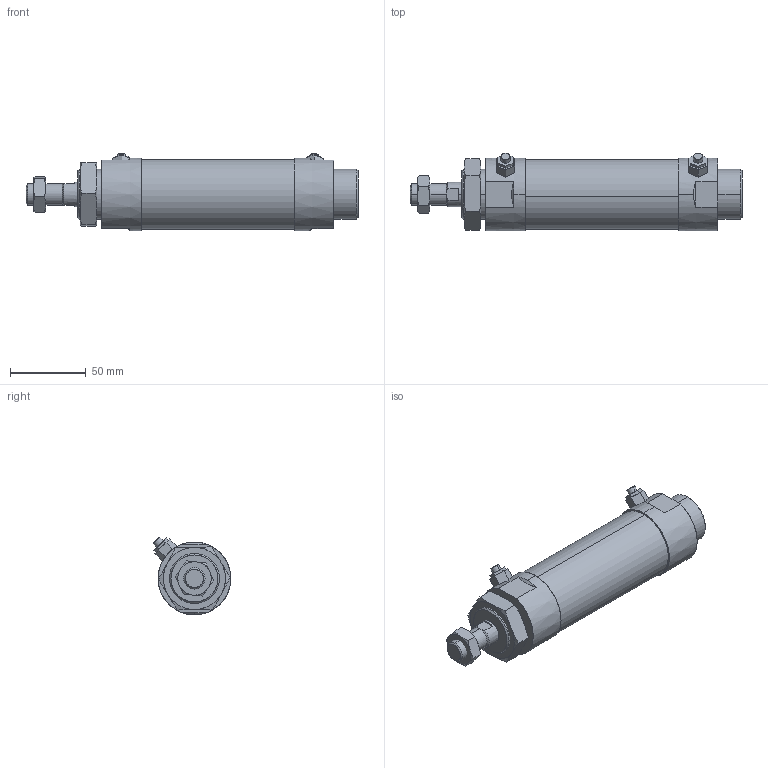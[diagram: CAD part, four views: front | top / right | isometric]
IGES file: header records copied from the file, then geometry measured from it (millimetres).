
Start section: SolidWorks IGES file using analytic representation for surfaces
Global section: file name: C:\Users\Toshiba\Desktop\JG2-40-50-N.IGS; native system: SolidWorks 2014; preprocessor: SolidWorks 2014; author: Toshiba; date: 160419.085303; units: millimetre
Bounding box: 219 x 51.22 x 51.22 mm (x, y, z)
Surface area: 45111.7 mm2 (no closed solid volume)
Topology: 0 solids, 0 shells, 130 faces, 2146 edges, 2142 vertices
Faces by surface type: bspline 89, revolution 41
